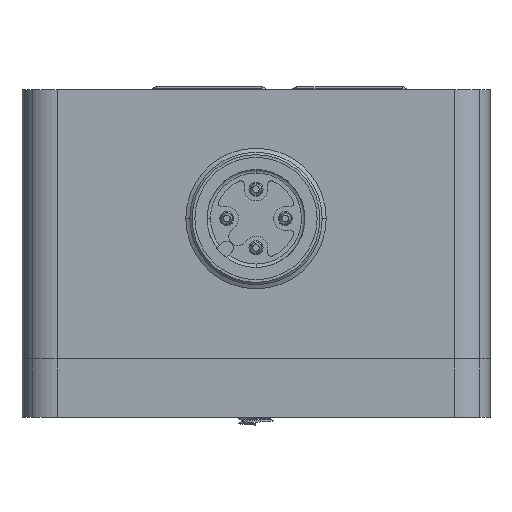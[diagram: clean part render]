
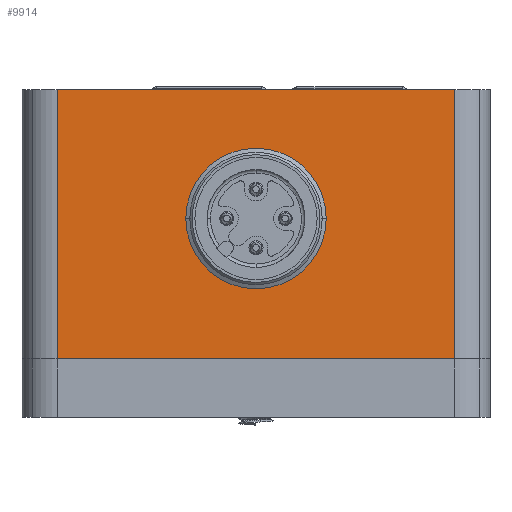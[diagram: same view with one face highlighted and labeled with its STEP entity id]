
A CAD part, front view. The second image highlights one B-rep face of the part: STEP entity #9914.
In plain terms, the highlighted planar face has unit normal (0, -1, 0).
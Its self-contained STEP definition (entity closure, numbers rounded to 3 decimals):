
#9722 = VERTEX_POINT('',#9723);
#9723 = CARTESIAN_POINT('',(17.,-23.,-9.));
#9730 = EDGE_CURVE('',#9731,#9722,#9733,.T.);
#9731 = VERTEX_POINT('',#9732);
#9732 = CARTESIAN_POINT('',(-17.,-23.,-9.));
#9733 = LINE('',#9734,#9735);
#9734 = CARTESIAN_POINT('',(0.,-23.,-9.));
#9735 = VECTOR('',#9736,1.);
#9736 = DIRECTION('',(1.,0.,0.));
#9789 = EDGE_CURVE('',#9731,#9790,#9792,.T.);
#9790 = VERTEX_POINT('',#9791);
#9791 = CARTESIAN_POINT('',(-17.,-23.,14.));
#9792 = LINE('',#9793,#9794);
#9793 = CARTESIAN_POINT('',(-17.,-23.,1.25));
#9794 = VECTOR('',#9795,1.);
#9795 = DIRECTION('',(0.,0.,1.));
#9821 = VERTEX_POINT('',#9822);
#9822 = CARTESIAN_POINT('',(17.,-23.,14.));
#9829 = EDGE_CURVE('',#9821,#9722,#9830,.T.);
#9830 = LINE('',#9831,#9832);
#9831 = CARTESIAN_POINT('',(17.,-23.,1.25));
#9832 = VECTOR('',#9833,1.);
#9833 = DIRECTION('',(-0.,0.,-1.));
#9914 = ADVANCED_FACE('',(#9915,#9935),#9946,.T.);
#9915 = FACE_BOUND('',#9916,.T.);
#9916 = EDGE_LOOP('',(#9917,#9928));
#9917 = ORIENTED_EDGE('',*,*,#9918,.F.);
#9918 = EDGE_CURVE('',#9919,#9921,#9923,.T.);
#9919 = VERTEX_POINT('',#9920);
#9920 = CARTESIAN_POINT('',(6.,-23.,3.));
#9921 = VERTEX_POINT('',#9922);
#9922 = CARTESIAN_POINT('',(-6.,-23.,3.));
#9923 = CIRCLE('',#9924,6.);
#9924 = AXIS2_PLACEMENT_3D('',#9925,#9926,#9927);
#9925 = CARTESIAN_POINT('',(0.,-23.,3.));
#9926 = DIRECTION('',(0.,-1.,0.));
#9927 = DIRECTION('',(1.,0.,0.));
#9928 = ORIENTED_EDGE('',*,*,#9929,.F.);
#9929 = EDGE_CURVE('',#9921,#9919,#9930,.T.);
#9930 = CIRCLE('',#9931,6.);
#9931 = AXIS2_PLACEMENT_3D('',#9932,#9933,#9934);
#9932 = CARTESIAN_POINT('',(0.,-23.,3.));
#9933 = DIRECTION('',(0.,-1.,0.));
#9934 = DIRECTION('',(1.,0.,0.));
#9935 = FACE_BOUND('',#9936,.T.);
#9936 = EDGE_LOOP('',(#9937,#9938,#9939,#9940));
#9937 = ORIENTED_EDGE('',*,*,#9789,.F.);
#9938 = ORIENTED_EDGE('',*,*,#9730,.T.);
#9939 = ORIENTED_EDGE('',*,*,#9829,.F.);
#9940 = ORIENTED_EDGE('',*,*,#9941,.F.);
#9941 = EDGE_CURVE('',#9790,#9821,#9942,.T.);
#9942 = LINE('',#9943,#9944);
#9943 = CARTESIAN_POINT('',(0.,-23.,14.));
#9944 = VECTOR('',#9945,1.);
#9945 = DIRECTION('',(1.,0.,0.));
#9946 = PLANE('',#9947);
#9947 = AXIS2_PLACEMENT_3D('',#9948,#9949,#9950);
#9948 = CARTESIAN_POINT('',(0.,-23.,3.));
#9949 = DIRECTION('',(0.,-1.,0.));
#9950 = DIRECTION('',(1.,0.,0.));
